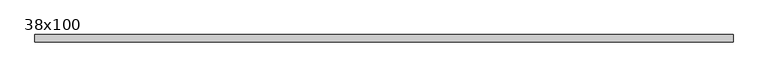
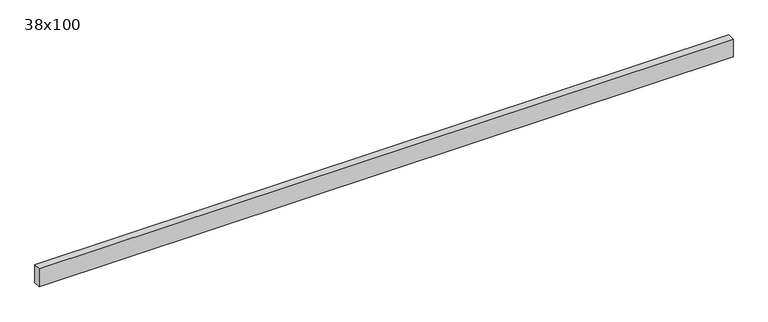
"""IFC4 building model written with IfcOpenShell, lengths in millimetres: beam geometry, Poutre - Bois de construction de dimensions courantes : 38x100."""

from ifc_helpers import new_model, si_unit, frame, origin, place, context, project, spatial, polyline, outline, extrude, source, transform, mapped, element, save


def beam_38x100_8d848639(model_context):
    return source(origin(), model_context, "Body", "SweptSolid", [
        extrude(outline(polyline([(1841.0, 19.05), (1841.0, -19.05), (-1841.0, -19.05), (-1841.0, 19.05), (1841.0, 19.05)])), frame((0.0, 0.0, -50.0), z_axis=(0.0, 0.0, 1.0), x_axis=(1.0, 0.0, 0.0)), (0.0, 0.0, 1.0), 100.0),
    ])


if __name__ == "__main__":
    model = new_model("IFC4")
    model_context = context("Model", 3, world=origin())
    ifc_project = project(units=[si_unit("LENGTHUNIT", "METRE", prefix="MILLI")], contexts=[model_context])
    site = spatial("IfcSite", under=ifc_project)
    building = spatial("IfcBuilding", under=site)
    placement = place(None, origin())
    beam_38x100_shape = beam_38x100_8d848639(model_context)
    element("IfcBeam", 1, ObjectType="Poutre - Bois de construction de dimensions courantes : 38x100", at=placement, inside=building, context=model_context, shape_type="MappedRepresentation", body=[
        mapped(beam_38x100_shape, transform((0.0, 0.0, 0.0), x_axis=(1.0, 0.0, 0.0), y_axis=(0.0, 1.0, 0.0), z_axis=(0.0, 0.0, 1.0))),
    ])
    save(model, "model.ifc")
